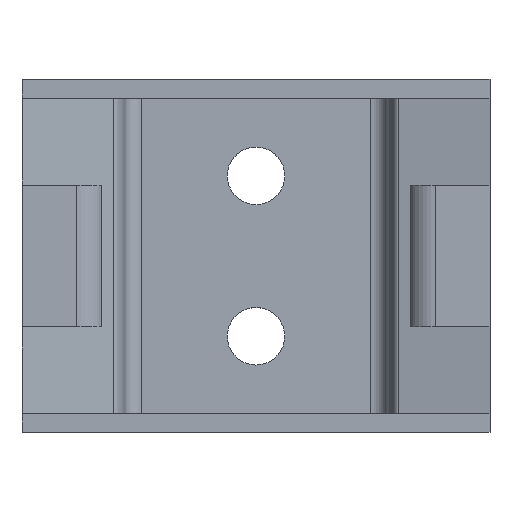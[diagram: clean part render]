
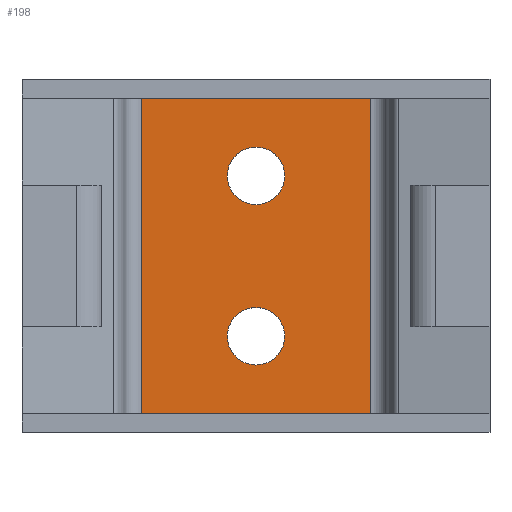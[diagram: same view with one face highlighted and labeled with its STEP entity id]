
A CAD part, top view. The second image highlights one B-rep face of the part: STEP entity #198.
In plain terms, the highlighted planar face has unit normal (0, 0, 1).
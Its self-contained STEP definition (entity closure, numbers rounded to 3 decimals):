
#198 = ADVANCED_FACE( '', ( #405, #406, #407 ), #408, .F. );
#405 = FACE_BOUND( '', #616, .T. );
#406 = FACE_BOUND( '', #617, .T. );
#407 = FACE_OUTER_BOUND( '', #618, .T. );
#408 = PLANE( '', #619 );
#616 = EDGE_LOOP( '', ( #1156 ) );
#617 = EDGE_LOOP( '', ( #1157 ) );
#618 = EDGE_LOOP( '', ( #1158, #1159, #1160, #1161 ) );
#619 = AXIS2_PLACEMENT_3D( '', #1162, #1163, #1164 );
#1156 = ORIENTED_EDGE( '', *, *, #1360, .F. );
#1157 = ORIENTED_EDGE( '', *, *, #1463, .F. );
#1158 = ORIENTED_EDGE( '', *, *, #1513, .F. );
#1159 = ORIENTED_EDGE( '', *, *, #1421, .F. );
#1160 = ORIENTED_EDGE( '', *, *, #1491, .F. );
#1161 = ORIENTED_EDGE( '', *, *, #1356, .T. );
#1162 = CARTESIAN_POINT( '', ( -8.6, -13.2, 2.2 ) );
#1163 = DIRECTION( '', ( 0., 0., -1. ) );
#1164 = DIRECTION( '', ( -1., 0., 0. ) );
#1356 = EDGE_CURVE( '', #1662, #1659, #1663, .T. );
#1360 = EDGE_CURVE( '', #1668, #1668, #1669, .T. );
#1421 = EDGE_CURVE( '', #1758, #1754, #1760, .T. );
#1463 = EDGE_CURVE( '', #1819, #1819, #1820, .T. );
#1491 = EDGE_CURVE( '', #1662, #1758, #1856, .T. );
#1513 = EDGE_CURVE( '', #1754, #1659, #1881, .T. );
#1659 = VERTEX_POINT( '', #2065 );
#1662 = VERTEX_POINT( '', #2068 );
#1663 = LINE( '', #2069, #2070 );
#1668 = VERTEX_POINT( '', #2076 );
#1669 = CIRCLE( '', #2077, 2.15 );
#1754 = VERTEX_POINT( '', #2196 );
#1758 = VERTEX_POINT( '', #2201 );
#1760 = LINE( '', #2203, #2204 );
#1819 = VERTEX_POINT( '', #2283 );
#1820 = CIRCLE( '', #2284, 2.15 );
#1856 = LINE( '', #2337, #2338 );
#1881 = LINE( '', #2373, #2374 );
#2065 = CARTESIAN_POINT( '', ( 8.6, 11.8, 2.2 ) );
#2068 = CARTESIAN_POINT( '', ( 8.6, -11.8, 2.2 ) );
#2069 = CARTESIAN_POINT( '', ( 8.6, -13.2, 2.2 ) );
#2070 = VECTOR( '', #2503, 1000. );
#2076 = CARTESIAN_POINT( '', ( 0., -8.15, 2.2 ) );
#2077 = AXIS2_PLACEMENT_3D( '', #2508, #2509, #2510 );
#2196 = CARTESIAN_POINT( '', ( -8.6, 11.8, 2.2 ) );
#2201 = CARTESIAN_POINT( '', ( -8.6, -11.8, 2.2 ) );
#2203 = CARTESIAN_POINT( '', ( -8.6, -13.2, 2.2 ) );
#2204 = VECTOR( '', #2576, 1000. );
#2283 = CARTESIAN_POINT( '', ( 0., 3.85, 2.2 ) );
#2284 = AXIS2_PLACEMENT_3D( '', #2627, #2628, #2629 );
#2337 = CARTESIAN_POINT( '', ( -8.6, -11.8, 2.2 ) );
#2338 = VECTOR( '', #2656, 1000. );
#2373 = CARTESIAN_POINT( '', ( -8.6, 11.8, 2.2 ) );
#2374 = VECTOR( '', #2676, 1000. );
#2503 = DIRECTION( '', ( 0., 1., 0. ) );
#2508 = CARTESIAN_POINT( '', ( 0., -6., 2.2 ) );
#2509 = DIRECTION( '', ( 0., 0., 1. ) );
#2510 = DIRECTION( '', ( 0., -1., 0. ) );
#2576 = DIRECTION( '', ( 0., 1., 0. ) );
#2627 = CARTESIAN_POINT( '', ( 0., 6., 2.2 ) );
#2628 = DIRECTION( '', ( 0., 0., 1. ) );
#2629 = DIRECTION( '', ( 0., -1., 0. ) );
#2656 = DIRECTION( '', ( -1., 0., 0. ) );
#2676 = DIRECTION( '', ( 1., 0., 0. ) );
